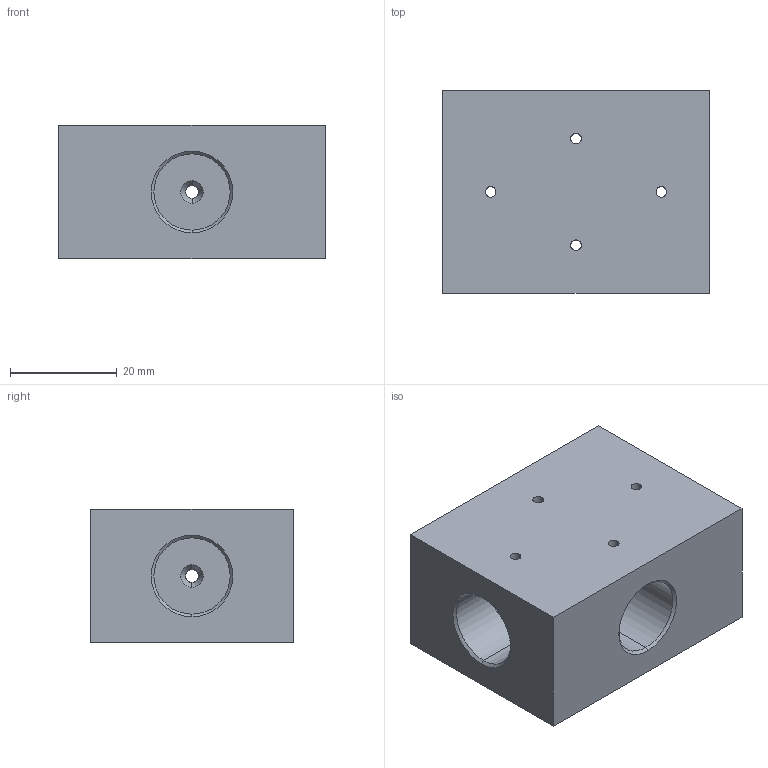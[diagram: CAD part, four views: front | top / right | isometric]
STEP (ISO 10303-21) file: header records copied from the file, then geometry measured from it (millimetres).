
FILE_DESCRIPTION (( 'STEP AP203' ), '1' );
FILE_NAME ('FT60CS04.STEP', '2026-06-26T00:51:03', ( 'USER' ), ( '' ), 'SwSTEP 2.0', 'SolidWorks 2023', '' );
FILE_SCHEMA (( 'CONFIG_CONTROL_DESIGN' ));
Length unit declared in the file: millimetre
Products named in the file (1): FT60CS04
Bounding box: 50 x 38 x 25 mm (x, y, z)
Volume: 40065.6 mm3; surface area: 10625.6 mm2
Topology: 1 solids, 1 shells, 58 faces, 152 edges, 90 vertices
Faces by surface type: cylinder 32, cone 16, plane 10
Entity records: 2113 total; most frequent: CARTESIAN_POINT 593, ORIENTED_EDGE 304, DIRECTION 298, EDGE_CURVE 152, AXIS2_PLACEMENT_3D 115, VERTEX_POINT 90, EDGE_LOOP 74, VECTOR 68
